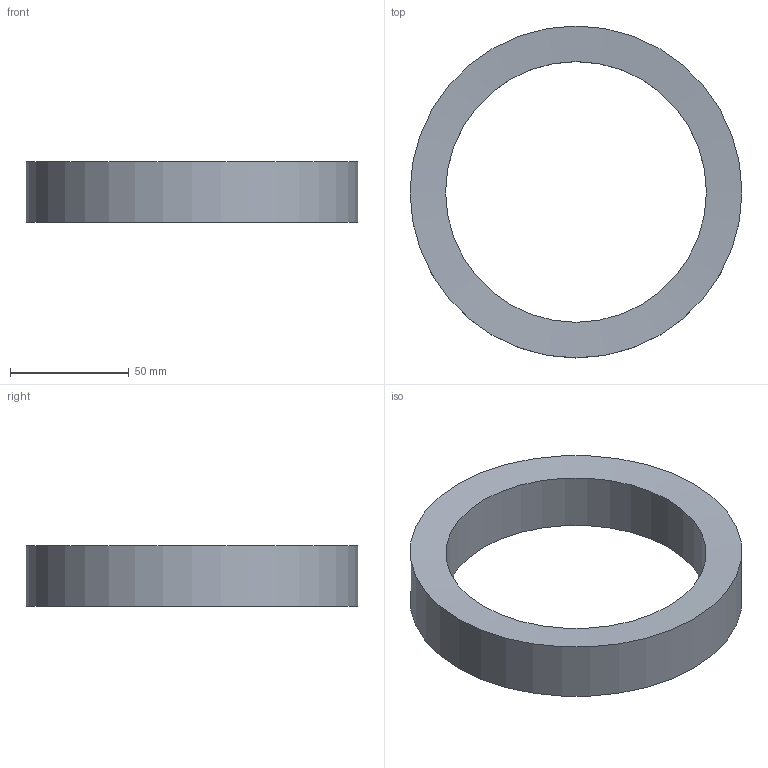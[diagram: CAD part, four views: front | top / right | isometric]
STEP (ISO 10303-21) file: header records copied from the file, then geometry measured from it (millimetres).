
FILE_DESCRIPTION(('Open CASCADE Model'),'2;1');
FILE_NAME('Open CASCADE Shape Model','2026-09-07T11:14:07',('Author'),( 'Open CASCADE'),'Open CASCADE STEP processor 7.9','Open CASCADE 7.9' ,'Unknown');
FILE_SCHEMA(('AUTOMOTIVE_DESIGN { 1 0 10303 214 1 1 1 1 }'));
Length unit declared in the file: millimetre
Products named in the file (1): Open CASCADE STEP translator 7.9 12
Bounding box: 140 x 140 x 25.45 mm (x, y, z)
Volume: 147163.5 mm3; surface area: 31458.8 mm2
Topology: 1 solids, 1 shells, 4 faces, 7 edges, 4 vertices
Faces by surface type: cylinder 2, plane 1, sphere 1
Full cylindrical faces by diameter (mm): 110 x1, 140 x1
Entity records: 205 total; most frequent: DIRECTION 36, CARTESIAN_POINT 30, ORIENTED_EDGE 14, PCURVE 14, DEFINITIONAL_REPRESENTATION 14, LINE 14, VECTOR 14, AXIS2_PLACEMENT_3D 10
